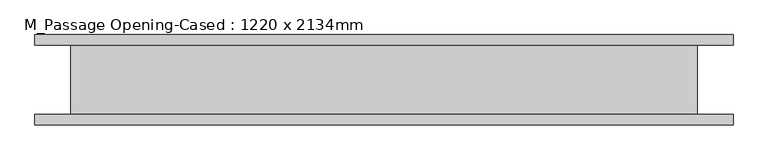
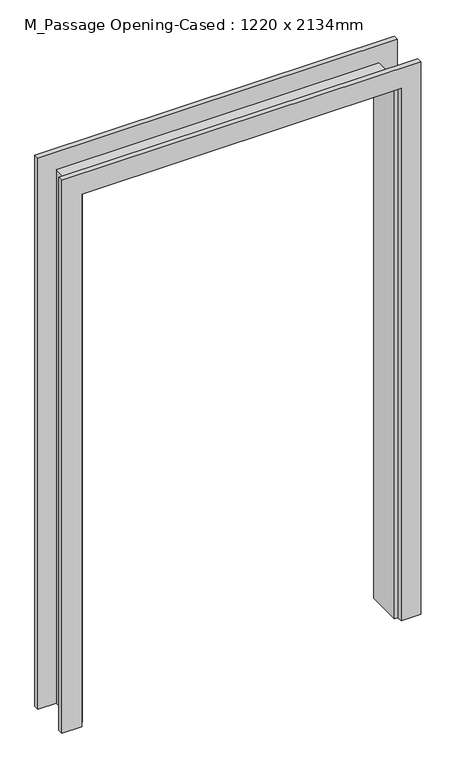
"""IFC4 building model written with IfcOpenShell, lengths in millimetres: proxy geometry, M_Passage Opening-Cased : 1220 x 2134mm."""

import ifcopenshell
import ifcopenshell.guid

model = None  # the IFC model being written
_history = None  # IfcOwnerHistory: only IFC2X3 demands one
_inside = {}  # id of a spatial element -> (the spatial element, [elements in it])
_under = {}  # id of a project, library or spatial element -> (it, [spatial elements below it])
_declared = {}  # id of a project -> (the project, [libraries it declares])
_typed = {}  # id of a type object -> (the type object, [elements of that type])
_made_of = {}  # id of a material, layer set ... -> (it, [elements and type objects made of it])


def new_model(schema):
    """Start an empty IFC model of exactly this schema.

    Asked for "IFC4X3", IfcOpenShell would pick the latest addendum, in which some entities
    have other attributes; the version numbers below select the first issue.
    IFC2X3 requires an IfcOwnerHistory on every rooted entity: one is made here for all.
    """
    global model, _history
    if schema == "IFC4X3":
        model = ifcopenshell.file(schema_version=(4, 3, 0, 0))
    else:
        model = ifcopenshell.file(schema=schema)
    _inside.clear()
    _under.clear()
    _declared.clear()
    _typed.clear()
    _made_of.clear()
    _history = None
    if model.schema == "IFC2X3":
        org = make("IfcOrganization", Name="unknown")
        user = make(
            "IfcPersonAndOrganization",
            ThePerson=make("IfcPerson", FamilyName="unknown"),
            TheOrganization=org,
        )
        app = make(
            "IfcApplication",
            ApplicationDeveloper=org,
            Version="unknown",
            ApplicationFullName="unknown",
            ApplicationIdentifier="unknown",
        )
        _history = make(
            "IfcOwnerHistory",
            OwningUser=user,
            OwningApplication=app,
            ChangeAction="ADDED",
            CreationDate=0,
        )
    return model


def make(cls, **values):
    """One entity of the class cls with the attributes given. An attribute that is None is left unset."""
    return model.create_entity(
        cls, **{name: value for name, value in values.items() if value is not None}
    )


def rooted(cls, **values):
    """An entity with a GlobalId (a new one), such as an element, a storey or a relation."""
    return make(cls, GlobalId=ifcopenshell.guid.new(), OwnerHistory=_history, **values)


def si_unit(unit_type, name, prefix=None):
    """IfcSIUnit, for example si_unit("LENGTHUNIT", "METRE", prefix="MILLI")."""
    return make("IfcSIUnit", UnitType=unit_type, Prefix=prefix, Name=name)


def assignment(units):
    """IfcUnitAssignment: the units of a project."""
    return None if units is None else make("IfcUnitAssignment", Units=units)


def point(xyz):
    """IfcCartesianPoint."""
    return None if xyz is None else make("IfcCartesianPoint", Coordinates=xyz)


def direction(xyz):
    """IfcDirection."""
    return None if xyz is None else make("IfcDirection", DirectionRatios=xyz)


def frame(location, z_axis=None, x_axis=None):
    """IfcAxis2Placement3D, a coordinate frame: its origin and axes. An axis left out is left unset."""
    return make(
        "IfcAxis2Placement3D",
        Location=point(location),
        Axis=direction(z_axis),
        RefDirection=direction(x_axis),
    )


def origin():
    """The frame at (0, 0, 0) with its axes left unset."""
    return frame((0.0, 0.0, 0.0))


def place(relative_to, where):
    """IfcLocalPlacement: puts the frame where relative to a parent placement (None: the world)."""
    return make(
        "IfcLocalPlacement", PlacementRelTo=relative_to, RelativePlacement=where
    )


def context(
    kind, dimensions, precision=None, world=None, true_north=None, identifier=None
):
    """IfcGeometricRepresentationContext, for example the 3D "Model" context."""
    return make(
        "IfcGeometricRepresentationContext",
        ContextIdentifier=identifier,
        ContextType=kind,
        CoordinateSpaceDimension=dimensions,
        Precision=precision,
        WorldCoordinateSystem=world,
        TrueNorth=true_north,
    )


def project(units=None, contexts=None):
    """IfcProject with its units and contexts."""
    return rooted(
        "IfcProject",
        Name="project",
        RepresentationContexts=contexts,
        UnitsInContext=assignment(units),
    )


def spatial(cls, under=None, at=None, **own):
    """A site, building, storey or space (cls), placed at a placement, below another one or the project."""
    s = rooted(cls, ObjectPlacement=at, **own)
    if under is not None:
        _under.setdefault(under.id(), (under, []))[1].append(s)
    return s


def polyline(points):
    """IfcPolyline through the points."""
    return make("IfcPolyline", Points=[point(p) for p in points])


def outline(outer, holes=None, kind="AREA"):
    """IfcArbitraryClosedProfileDef: a profile drawn as a closed curve; with holes, ...WithVoids."""
    if holes is None:
        return make("IfcArbitraryClosedProfileDef", ProfileType=kind, OuterCurve=outer)
    return make(
        "IfcArbitraryProfileDefWithVoids",
        ProfileType=kind,
        OuterCurve=outer,
        InnerCurves=holes,
    )


def extrude(swept, where, along, depth):
    """IfcExtrudedAreaSolid: the profile swept, set in the frame where, extruded along a direction by depth."""
    return make(
        "IfcExtrudedAreaSolid",
        SweptArea=swept,
        Position=where,
        ExtrudedDirection=direction(along),
        Depth=depth,
    )


def faces_of(points, faces, orient=None, outer=None):
    """IfcFace entities. A face is a list of loops; a loop is a list of indices into points, from 0.

    orient and outer hold one flag for each loop. By default every Orientation is true, the
    first loop of a face is its IfcFaceOuterBound and the others are IfcFaceBound.
    """
    made = []
    for i, loops in enumerate(faces):
        bounds = []
        for j, loop in enumerate(loops):
            is_outer = j == 0 if outer is None else outer[i][j]
            bounds.append(
                make(
                    "IfcFaceOuterBound" if is_outer else "IfcFaceBound",
                    Bound=make("IfcPolyLoop", Polygon=[points[k] for k in loop]),
                    Orientation=True if orient is None else orient[i][j],
                )
            )
        made.append(make("IfcFace", Bounds=bounds))
    return made


def faceted_brep(points, faces, orient=None, outer=None, voids=None):
    """IfcFacetedBrep: a solid bounded by flat faces; with voids (closed shells), ...WithVoids."""
    shared = [point(p) for p in points]
    hull = make("IfcClosedShell", CfsFaces=faces_of(shared, faces, orient, outer))
    if voids is None:
        return make("IfcFacetedBrep", Outer=hull)
    return make(
        "IfcFacetedBrepWithVoids",
        Outer=hull,
        Voids=[
            make(cls, CfsFaces=faces_of(shared, fs, o, b)) for cls, fs, o, b in voids
        ],
    )


def shape(context_of_items, identifier, shape_type, items):
    """IfcShapeRepresentation: the items that make up one representation, for example the "Body"."""
    return make(
        "IfcShapeRepresentation",
        ContextOfItems=context_of_items,
        RepresentationIdentifier=identifier,
        RepresentationType=shape_type,
        Items=items,
    )


def source(mapping_origin, context_of_items, identifier, shape_type, items):
    """IfcRepresentationMap: a shape defined once, which mapped items show again and again."""
    return make(
        "IfcRepresentationMap",
        MappingOrigin=mapping_origin,
        MappedRepresentation=shape(context_of_items, identifier, shape_type, items),
    )


def transform(
    local_origin,
    x_axis=None,
    y_axis=None,
    z_axis=None,
    scale=None,
    scale2=None,
    scale3=None,
    uniform=True,
):
    """IfcCartesianTransformationOperator3D, or its non-uniform kind. x_axis, y_axis, z_axis: its Axis1, 2, 3."""
    if uniform:
        return make(
            "IfcCartesianTransformationOperator3D",
            Axis1=direction(x_axis),
            Axis2=direction(y_axis),
            LocalOrigin=point(local_origin),
            Scale=scale,
            Axis3=direction(z_axis),
        )
    return make(
        "IfcCartesianTransformationOperator3DnonUniform",
        Axis1=direction(x_axis),
        Axis2=direction(y_axis),
        LocalOrigin=point(local_origin),
        Scale=scale,
        Axis3=direction(z_axis),
        Scale2=scale2,
        Scale3=scale3,
    )


def mapped(mapping_source, mapping_target):
    """IfcMappedItem: shows the shape of a source again, moved by a transform."""
    return make(
        "IfcMappedItem", MappingSource=mapping_source, MappingTarget=mapping_target
    )


def made_of(thing, what):
    """Note that an element or type object is made of a material, layer set ...; save() writes the relation."""
    if what is not None:
        _made_of.setdefault(what.id(), (what, []))[1].append(thing)
    return thing


def element(
    cls,
    number,
    at=None,
    inside=None,
    cuts=None,
    type_object=None,
    material=None,
    context=None,
    identifier="Body",
    shape_type=None,
    held_by="IfcProductDefinitionShape",
    body=None,
    shapes=None,
    **own,
):
    """One element of the class cls, such as IfcWall. Its Tag is "e" and its number.

    at: its placement. inside: the storey or other place that contains it. cuts: it is an
    opening in that element (IfcRelVoidsElement). A single representation is given by context,
    identifier, shape_type and body (its items); several are given by shapes. held_by: the class
    of the entity that holds the representations. save() writes the other relations.
    """
    e = rooted(cls, Tag="e%d" % number, ObjectPlacement=at, **own)
    if body is not None:
        shapes = [shape(context, identifier, shape_type, body)]
    if shapes is not None:
        e.Representation = make(held_by, Representations=shapes)
    if inside is not None:
        _inside.setdefault(inside.id(), (inside, []))[1].append(e)
    if cuts is not None:
        rooted(
            "IfcRelVoidsElement", RelatingBuildingElement=cuts, RelatedOpeningElement=e
        )
    if type_object is not None:
        _typed.setdefault(type_object.id(), (type_object, []))[1].append(e)
    return made_of(e, material)


def aggregate(whole, parts):
    """IfcRelAggregates: a whole, such as a stair, and the parts it consists of."""
    return rooted("IfcRelAggregates", RelatingObject=whole, RelatedObjects=parts)


def save(model, path):
    """Write the relations noted so far, then the file.

    IfcRelAggregates (storeys below a building ...), IfcRelContainedInSpatialStructure (elements
    in a storey), IfcRelDefinesByType, IfcRelAssociatesMaterial and IfcRelDeclares: one each for
    every whole, place, type object, material and project.
    """
    for whole, parts in _under.values():
        aggregate(whole, parts)
    for where, things in _inside.values():
        rooted(
            "IfcRelContainedInSpatialStructure",
            RelatedElements=things,
            RelatingStructure=where,
        )
    for kind, things in _typed.values():
        rooted("IfcRelDefinesByType", RelatedObjects=things, RelatingType=kind)
    for what, things in _made_of.values():
        rooted("IfcRelAssociatesMaterial", RelatedObjects=things, RelatingMaterial=what)
    for by, libraries in _declared.values():
        rooted("IfcRelDeclares", RelatingContext=by, RelatedDefinitions=libraries)
    model.write(path)


def m_passage_opening_cased_1220_x_2134mm_7296280d(model_context):
    return source(origin(), model_context, "Body", "SolidModel", [
        extrude(outline(polyline([(0.0, -611.8386567), (2127.65, -611.8386567), (2127.65, 595.4613433), (0.0, 595.4613433), (0.0, 670.4613433), (2202.65, 670.4613433), (2202.65, -686.8386567), (0.0, -686.8386567), (0.0, -611.8386567)])), frame((0.0, 67.75, 0.0), z_axis=(0.0, 1.0, 0.0), x_axis=(0.0, 0.0, 1.0)), (0.0, 0.0, 1.0), 20.0),
        extrude(outline(polyline([(0.0, 670.4613433), (2208.05, 670.4613433), (2208.05, -686.8386567), (0.0, -686.8386567), (0.0, -611.8386567), (2127.65, -611.8386567), (2127.65, 595.4613433), (0.0, 595.4613433), (0.0, 670.4613433)])), frame((0.0, -87.75, 0.0), z_axis=(0.0, 1.0, 0.0), x_axis=(0.0, 0.0, 1.0)), (0.0, 0.0, 1.0), 20.0),
        faceted_brep([(581.8113433, -67.75, 0.0), (581.8113433, 67.75, 0.0), (600.8613433, 67.75, 0.0), (600.8613433, -67.75, 0.0), (600.8613433, -67.75, 2133.05), (581.8113433, -67.75, 2114.0), (600.8613433, 67.75, 2133.05), (581.8113433, 67.75, 2114.0), (-617.2386567, -67.75, 2133.05), (-598.1886567, -67.75, 2114.0), (-617.2386567, 67.75, 2133.05), (-598.1886567, 67.75, 2114.0), (-598.1886567, -67.75, 0.0), (-617.2386567, -67.75, 0.0), (-617.2386567, 67.75, 0.0), (-598.1886567, 67.75, 0.0)], [[[0, 1, 2, 3]], [[3, 4, 5, 0]], [[2, 6, 4, 3]], [[1, 7, 6, 2]], [[0, 5, 7, 1]], [[4, 8, 9, 5]], [[6, 10, 8, 4]], [[7, 11, 10, 6]], [[5, 9, 11, 7]], [[12, 13, 14, 15]], [[8, 13, 12, 9]], [[10, 14, 13, 8]], [[11, 15, 14, 10]], [[9, 12, 15, 11]]]),
    ])


if __name__ == "__main__":
    model = new_model("IFC4")
    model_context = context("Model", 3, world=origin())
    ifc_project = project(units=[si_unit("LENGTHUNIT", "METRE", prefix="MILLI")], contexts=[model_context])
    site = spatial("IfcSite", under=ifc_project)
    building = spatial("IfcBuilding", under=site)
    placement = place(None, origin())
    m_passage_opening_cased_1220_x_2134mm_shape = m_passage_opening_cased_1220_x_2134mm_7296280d(model_context)
    element("IfcBuildingElementProxy", 1, Name="M_Passage Opening-Cased : 1220 x 2134mm", ObjectType="M_Passage Opening-Cased : 1220 x 2134mm", at=placement, inside=building, context=model_context, shape_type="MappedRepresentation", body=[
        mapped(m_passage_opening_cased_1220_x_2134mm_shape, transform((0.0, 0.0, 0.0), x_axis=(1.0, 0.0, 0.0), y_axis=(0.0, 1.0, 0.0), z_axis=(0.0, 0.0, 1.0))),
    ])
    save(model, "model.ifc")
